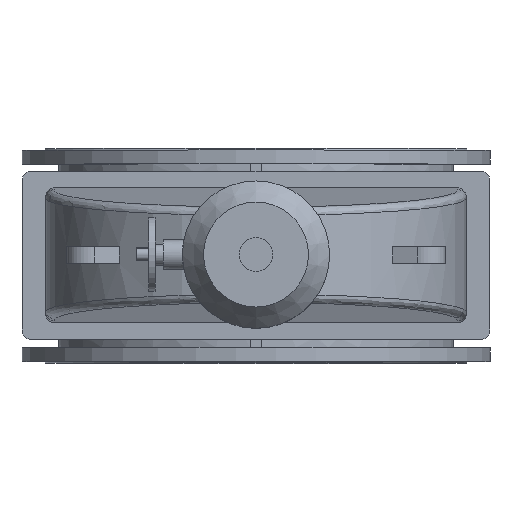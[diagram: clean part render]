
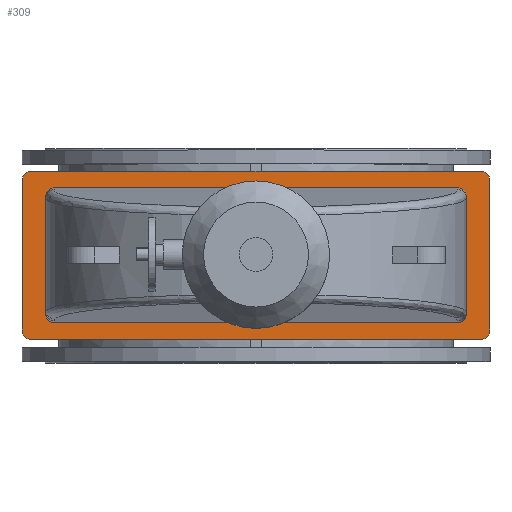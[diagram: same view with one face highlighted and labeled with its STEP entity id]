
A CAD part, top view. The second image highlights one B-rep face of the part: STEP entity #309.
In plain terms, the highlighted planar face has unit normal (0, 0, 1).
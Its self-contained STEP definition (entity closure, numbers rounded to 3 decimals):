
#309=ADVANCED_FACE('',(#3510,#3512),#3514,.T.);
#3510=FACE_BOUND('',#3511,.T.);
#3511=EDGE_LOOP('',(#8014,#8015,#8016,#8017,#8018,#8019,#8020,#8021));
#3512=FACE_BOUND('',#3513,.T.);
#3513=EDGE_LOOP('',(#8022,#8023,#8024,#8025,#8026,#8027,#8028,#8029));
#3514=PLANE('',#3515);
#3515=AXIS2_PLACEMENT_3D('',#3516,#3517,#3518);
#3516=CARTESIAN_POINT('',(0.,0.,996.));
#3517=DIRECTION('',(0.,-0.,1.));
#3518=DIRECTION('',(0.,1.,0.));
#8014=ORIENTED_EDGE('',*,*,#9272,.F.);
#8015=ORIENTED_EDGE('',*,*,#9273,.T.);
#8016=ORIENTED_EDGE('',*,*,#9274,.F.);
#8017=ORIENTED_EDGE('',*,*,#9275,.T.);
#8018=ORIENTED_EDGE('',*,*,#9276,.F.);
#8019=ORIENTED_EDGE('',*,*,#9277,.T.);
#8020=ORIENTED_EDGE('',*,*,#9278,.F.);
#8021=ORIENTED_EDGE('',*,*,#9279,.T.);
#8022=ORIENTED_EDGE('',*,*,#9270,.F.);
#8023=ORIENTED_EDGE('',*,*,#9269,.F.);
#8024=ORIENTED_EDGE('',*,*,#9271,.F.);
#8025=ORIENTED_EDGE('',*,*,#9244,.F.);
#8026=ORIENTED_EDGE('',*,*,#9280,.F.);
#8027=ORIENTED_EDGE('',*,*,#9281,.F.);
#8028=ORIENTED_EDGE('',*,*,#9282,.F.);
#8029=ORIENTED_EDGE('',*,*,#9237,.F.);
#9237=EDGE_CURVE('',#9912,#9914,#9915,.T.);
#9244=EDGE_CURVE('',#9924,#9922,#9926,.T.);
#9269=EDGE_CURVE('',#9965,#9963,#9967,.T.);
#9270=EDGE_CURVE('',#9963,#9912,#9968,.F.);
#9271=EDGE_CURVE('',#9922,#9965,#9969,.T.);
#9272=EDGE_CURVE('',#9970,#9971,#9972,.F.);
#9273=EDGE_CURVE('',#9970,#9973,#9974,.T.);
#9274=EDGE_CURVE('',#9975,#9973,#9976,.F.);
#9275=EDGE_CURVE('',#9975,#9977,#9978,.T.);
#9276=EDGE_CURVE('',#9979,#9977,#9980,.F.);
#9277=EDGE_CURVE('',#9979,#9981,#9982,.T.);
#9278=EDGE_CURVE('',#9983,#9981,#9984,.F.);
#9279=EDGE_CURVE('',#9983,#9971,#9985,.T.);
#9280=EDGE_CURVE('',#9986,#9924,#9987,.F.);
#9281=EDGE_CURVE('',#9988,#9986,#9989,.T.);
#9282=EDGE_CURVE('',#9914,#9988,#9990,.T.);
#9912=VERTEX_POINT('',#11321);
#9914=VERTEX_POINT('',#11325);
#9915=LINE('',#11326,#11327);
#9922=VERTEX_POINT('',#11346);
#9924=VERTEX_POINT('',#11350);
#9926=LINE('',#11354,#11355);
#9963=VERTEX_POINT('',#11447);
#9965=VERTEX_POINT('',#11451);
#9967=LINE('',#11455,#11456);
#9968=(BOUNDED_CURVE()B_SPLINE_CURVE(3,
(#11458,#11459,#11460,#11461),
.UNSPECIFIED.,.F.,.F.)B_SPLINE_CURVE_WITH_KNOTS((4,4),
(0.,1.),
.UNSPECIFIED.)CURVE()GEOMETRIC_REPRESENTATION_ITEM()RATIONAL_B_SPLINE_CURVE((1.,
0.805,0.805,1.))REPRESENTATION_ITEM(''));
#9969=(BOUNDED_CURVE()B_SPLINE_CURVE(3,
(#11462,#11463,#11464,#11465),
.UNSPECIFIED.,.F.,.F.)B_SPLINE_CURVE_WITH_KNOTS((4,4),
(0.,1.),
.UNSPECIFIED.)CURVE()GEOMETRIC_REPRESENTATION_ITEM()RATIONAL_B_SPLINE_CURVE((1.,
0.805,0.805,1.))REPRESENTATION_ITEM(''));
#9970=VERTEX_POINT('',#11466);
#9971=VERTEX_POINT('',#11467);
#9972=CIRCLE('',#11468,20.);
#9973=VERTEX_POINT('',#11472);
#9974=LINE('',#11473,#11474);
#9975=VERTEX_POINT('',#11476);
#9976=CIRCLE('',#11477,20.);
#9977=VERTEX_POINT('',#11481);
#9978=LINE('',#11482,#11483);
#9979=VERTEX_POINT('',#11485);
#9980=CIRCLE('',#11486,20.);
#9981=VERTEX_POINT('',#11490);
#9982=LINE('',#11491,#11492);
#9983=VERTEX_POINT('',#11494);
#9984=CIRCLE('',#11495,20.);
#9985=LINE('',#11499,#11500);
#9986=VERTEX_POINT('',#11502);
#9987=(BOUNDED_CURVE()B_SPLINE_CURVE(3,
(#11503,#11504,#11505,#11506),
.UNSPECIFIED.,.F.,.F.)B_SPLINE_CURVE_WITH_KNOTS((4,4),
(0.,1.),
.UNSPECIFIED.)CURVE()GEOMETRIC_REPRESENTATION_ITEM()RATIONAL_B_SPLINE_CURVE((1.,
0.805,0.805,1.))REPRESENTATION_ITEM(''));
#9988=VERTEX_POINT('',#11507);
#9989=LINE('',#11508,#11509);
#9990=(BOUNDED_CURVE()B_SPLINE_CURVE(3,
(#11511,#11512,#11513,#11514),
.UNSPECIFIED.,.F.,.F.)B_SPLINE_CURVE_WITH_KNOTS((4,4),
(0.,1.),
.UNSPECIFIED.)CURVE()GEOMETRIC_REPRESENTATION_ITEM()RATIONAL_B_SPLINE_CURVE((1.,
0.805,0.805,1.))REPRESENTATION_ITEM(''));
#11321=CARTESIAN_POINT('',(500.,-139.924,996.));
#11325=CARTESIAN_POINT('',(500.,139.924,996.));
#11326=CARTESIAN_POINT('',(500.,-139.924,996.));
#11327=VECTOR('',#11328,1.);
#11328=DIRECTION('',(0.,1.,0.));
#11346=CARTESIAN_POINT('',(-500.,-139.924,996.));
#11350=CARTESIAN_POINT('',(-500.,139.924,996.));
#11354=CARTESIAN_POINT('',(-500.,139.924,996.));
#11355=VECTOR('',#11356,1.);
#11356=DIRECTION('',(0.,-1.,0.));
#11447=CARTESIAN_POINT('',(480.,-160.,996.));
#11451=CARTESIAN_POINT('',(-480.,-160.,996.));
#11455=CARTESIAN_POINT('',(-480.,-160.,996.));
#11456=VECTOR('',#11457,1.);
#11457=DIRECTION('',(1.,0.,0.));
#11458=CARTESIAN_POINT('',(500.,-139.924,996.));
#11459=CARTESIAN_POINT('',(500.,-151.684,996.));
#11460=CARTESIAN_POINT('',(491.716,-160.,996.));
#11461=CARTESIAN_POINT('',(480.,-160.,996.));
#11462=CARTESIAN_POINT('',(-500.,-139.924,996.));
#11463=CARTESIAN_POINT('',(-500.,-151.684,996.));
#11464=CARTESIAN_POINT('',(-491.716,-160.,996.));
#11465=CARTESIAN_POINT('',(-480.,-160.,996.));
#11466=CARTESIAN_POINT('',(-535.,-200.,996.));
#11467=CARTESIAN_POINT('',(-555.,-180.,996.));
#11468=AXIS2_PLACEMENT_3D('',#11469,#11470,#11471);
#11469=CARTESIAN_POINT('',(-535.,-180.,996.));
#11470=DIRECTION('',(0.,-0.,1.));
#11471=DIRECTION('',(-1.,0.,0.));
#11472=CARTESIAN_POINT('',(535.,-200.,996.));
#11473=CARTESIAN_POINT('',(-535.,-200.,996.));
#11474=VECTOR('',#11475,1.);
#11475=DIRECTION('',(1.,0.,0.));
#11476=CARTESIAN_POINT('',(555.,-180.,996.));
#11477=AXIS2_PLACEMENT_3D('',#11478,#11479,#11480);
#11478=CARTESIAN_POINT('',(535.,-180.,996.));
#11479=DIRECTION('',(0.,-0.,1.));
#11480=DIRECTION('',(0.,-1.,0.));
#11481=CARTESIAN_POINT('',(555.,180.,996.));
#11482=CARTESIAN_POINT('',(555.,-180.,996.));
#11483=VECTOR('',#11484,1.);
#11484=DIRECTION('',(0.,1.,0.));
#11485=CARTESIAN_POINT('',(535.,200.,996.));
#11486=AXIS2_PLACEMENT_3D('',#11487,#11488,#11489);
#11487=CARTESIAN_POINT('',(535.,180.,996.));
#11488=DIRECTION('',(0.,-0.,1.));
#11489=DIRECTION('',(1.,0.,0.));
#11490=CARTESIAN_POINT('',(-535.,200.,996.));
#11491=CARTESIAN_POINT('',(535.,200.,996.));
#11492=VECTOR('',#11493,1.);
#11493=DIRECTION('',(-1.,0.,0.));
#11494=CARTESIAN_POINT('',(-555.,180.,996.));
#11495=AXIS2_PLACEMENT_3D('',#11496,#11497,#11498);
#11496=CARTESIAN_POINT('',(-535.,180.,996.));
#11497=DIRECTION('',(0.,-0.,1.));
#11498=DIRECTION('',(0.,1.,0.));
#11499=CARTESIAN_POINT('',(-555.,180.,996.));
#11500=VECTOR('',#11501,1.);
#11501=DIRECTION('',(0.,-1.,0.));
#11502=CARTESIAN_POINT('',(-480.,160.,996.));
#11503=CARTESIAN_POINT('',(-500.,139.924,996.));
#11504=CARTESIAN_POINT('',(-500.,151.684,996.));
#11505=CARTESIAN_POINT('',(-491.716,160.,996.));
#11506=CARTESIAN_POINT('',(-480.,160.,996.));
#11507=CARTESIAN_POINT('',(480.,160.,996.));
#11508=CARTESIAN_POINT('',(480.,160.,996.));
#11509=VECTOR('',#11510,1.);
#11510=DIRECTION('',(-1.,0.,0.));
#11511=CARTESIAN_POINT('',(500.,139.924,996.));
#11512=CARTESIAN_POINT('',(500.,151.684,996.));
#11513=CARTESIAN_POINT('',(491.716,160.,996.));
#11514=CARTESIAN_POINT('',(480.,160.,996.));
